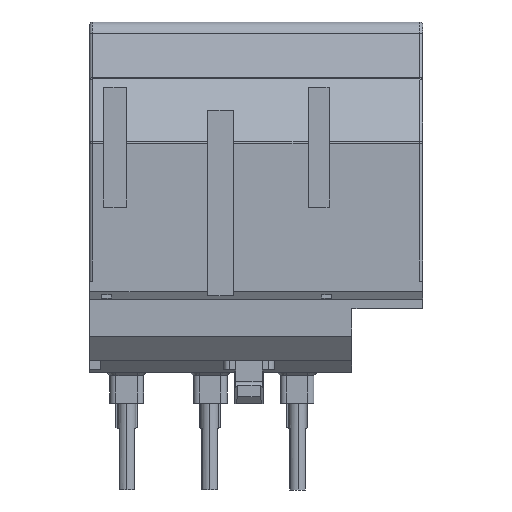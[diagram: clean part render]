
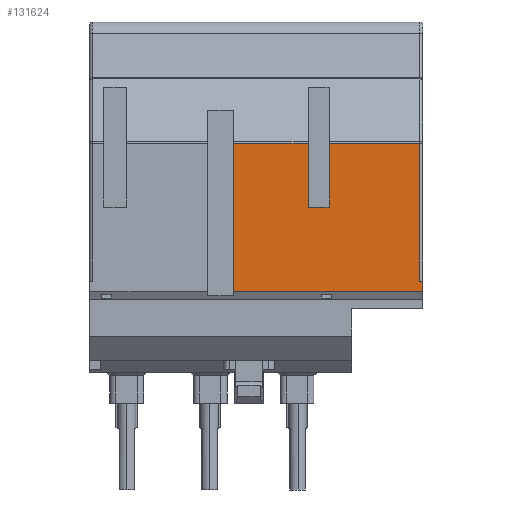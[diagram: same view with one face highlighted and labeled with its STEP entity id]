
A CAD part, front view. The second image highlights one B-rep face of the part: STEP entity #131624.
In plain terms, the highlighted planar face has unit normal (0, -1, 0).
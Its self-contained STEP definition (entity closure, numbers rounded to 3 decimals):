
#3917 = CARTESIAN_POINT ( 'NONE',  ( -22.358, -74.5, 11.8 ) ) ;
#5204 = DIRECTION ( 'NONE',  ( 0., 0., 1. ) ) ;
#8734 = VECTOR ( 'NONE', #48322, 1000. ) ;
#8840 = CARTESIAN_POINT ( 'NONE',  ( -22.358, -74.5, 26.5 ) ) ;
#8936 = ORIENTED_EDGE ( 'NONE', *, *, #18114, .T. ) ;
#9118 = ORIENTED_EDGE ( 'NONE', *, *, #50610, .F. ) ;
#10460 = CARTESIAN_POINT ( 'NONE',  ( 0., -74.5, 26.5 ) ) ;
#10512 = VERTEX_POINT ( 'NONE', #23595 ) ;
#13356 = CARTESIAN_POINT ( 'NONE',  ( 0., -74.5, 26.5 ) ) ;
#16446 = DIRECTION ( 'NONE',  ( 0., 0., -1. ) ) ;
#18114 = EDGE_CURVE ( 'NONE', #107417, #110657, #54779, .T. ) ;
#18155 = ORIENTED_EDGE ( 'NONE', *, *, #40929, .T. ) ;
#20833 = EDGE_CURVE ( 'NONE', #110657, #125115, #91464, .T. ) ;
#22180 = VECTOR ( 'NONE', #54309, 1000. ) ;
#23189 = CARTESIAN_POINT ( 'NONE',  ( 0., -74.5, 27. ) ) ;
#23595 = CARTESIAN_POINT ( 'NONE',  ( 1.7, -74.5, 27. ) ) ;
#27273 = CARTESIAN_POINT ( 'NONE',  ( -12., -74.5, 11.8 ) ) ;
#27509 = ORIENTED_EDGE ( 'NONE', *, *, #102811, .F. ) ;
#32689 = VERTEX_POINT ( 'NONE', #51445 ) ;
#32879 = LINE ( 'NONE', #13356, #37589 ) ;
#33332 = DIRECTION ( 'NONE',  ( 1., 0., 0. ) ) ;
#33778 = VECTOR ( 'NONE', #33332, 1000. ) ;
#34570 = CARTESIAN_POINT ( 'NONE',  ( -22.358, -74.5, 8.4 ) ) ;
#36321 = VERTEX_POINT ( 'NONE', #64450 ) ;
#36996 = VECTOR ( 'NONE', #77054, 1000. ) ;
#37589 = VECTOR ( 'NONE', #53099, 1000. ) ;
#37870 = CARTESIAN_POINT ( 'NONE',  ( -22.358, -74.5, -3.7 ) ) ;
#39495 = LINE ( 'NONE', #8840, #134051 ) ;
#40294 = LINE ( 'NONE', #91148, #108333 ) ;
#40390 = VERTEX_POINT ( 'NONE', #52895 ) ;
#40929 = EDGE_CURVE ( 'NONE', #46205, #43297, #99312, .T. ) ;
#43297 = VERTEX_POINT ( 'NONE', #27273 ) ;
#43794 = LINE ( 'NONE', #128086, #33778 ) ;
#46205 = VERTEX_POINT ( 'NONE', #54235 ) ;
#46251 = EDGE_CURVE ( 'NONE', #125115, #10512, #115554, .T. ) ;
#46434 = DIRECTION ( 'NONE',  ( 0., -1., 0. ) ) ;
#48322 = DIRECTION ( 'NONE',  ( 1., 0., 0. ) ) ;
#48480 = FACE_OUTER_BOUND ( 'NONE', #55156, .T. ) ;
#50610 = EDGE_CURVE ( 'NONE', #107417, #36321, #43794, .T. ) ;
#50881 = ORIENTED_EDGE ( 'NONE', *, *, #125040, .F. ) ;
#51445 = CARTESIAN_POINT ( 'NONE',  ( 0., -74.5, 26.5 ) ) ;
#52088 = AXIS2_PLACEMENT_3D ( 'NONE', #90944, #46434, #16446 ) ;
#52895 = CARTESIAN_POINT ( 'NONE',  ( -22.358, -74.5, 26.5 ) ) ;
#53099 = DIRECTION ( 'NONE',  ( -1., 0., 0. ) ) ;
#54235 = CARTESIAN_POINT ( 'NONE',  ( -22.358, -74.5, 11.8 ) ) ;
#54309 = DIRECTION ( 'NONE',  ( 0., 0., 1. ) ) ;
#54779 = LINE ( 'NONE', #34570, #36996 ) ;
#54929 = CARTESIAN_POINT ( 'NONE',  ( -22.358, -74.5, -3.7 ) ) ;
#54970 = ORIENTED_EDGE ( 'NONE', *, *, #135776, .T. ) ;
#55156 = EDGE_LOOP ( 'NONE', ( #54970, #18155, #115183, #9118, #8936, #126960, #127770, #27509, #50881, #84113 ) ) ;
#60178 = CARTESIAN_POINT ( 'NONE',  ( -12., -74.5, 8.4 ) ) ;
#60391 = DIRECTION ( 'NONE',  ( 0., 0., -1. ) ) ;
#64450 = CARTESIAN_POINT ( 'NONE',  ( -12., -74.5, 8.4 ) ) ;
#68010 = PLANE ( 'NONE',  #52088 ) ;
#76570 = LINE ( 'NONE', #10460, #22180 ) ;
#77054 = DIRECTION ( 'NONE',  ( 0., 0., -1. ) ) ;
#84113 = ORIENTED_EDGE ( 'NONE', *, *, #124678, .T. ) ;
#85008 = VECTOR ( 'NONE', #5204, 1000. ) ;
#88862 = DIRECTION ( 'NONE',  ( 1., 0., 0. ) ) ;
#90944 = CARTESIAN_POINT ( 'NONE',  ( -22.5, -74.5, -27. ) ) ;
#91148 = CARTESIAN_POINT ( 'NONE',  ( 0., -74.5, 27. ) ) ;
#91464 = LINE ( 'NONE', #37870, #8734 ) ;
#94200 = CARTESIAN_POINT ( 'NONE',  ( -22.358, -74.5, 8.4 ) ) ;
#95462 = EDGE_CURVE ( 'NONE', #36321, #43297, #133333, .T. ) ;
#96015 = CARTESIAN_POINT ( 'NONE',  ( 1.7, -74.5, -3.7 ) ) ;
#99312 = LINE ( 'NONE', #3917, #108394 ) ;
#102811 = EDGE_CURVE ( 'NONE', #120467, #10512, #40294, .T. ) ;
#103665 = DIRECTION ( 'NONE',  ( 1., 0., 0. ) ) ;
#107417 = VERTEX_POINT ( 'NONE', #94200 ) ;
#108333 = VECTOR ( 'NONE', #103665, 1000. ) ;
#108394 = VECTOR ( 'NONE', #88862, 1000. ) ;
#110657 = VERTEX_POINT ( 'NONE', #54929 ) ;
#115183 = ORIENTED_EDGE ( 'NONE', *, *, #95462, .F. ) ;
#115554 = LINE ( 'NONE', #96015, #117831 ) ;
#117831 = VECTOR ( 'NONE', #128076, 1000. ) ;
#120467 = VERTEX_POINT ( 'NONE', #23189 ) ;
#122488 = CARTESIAN_POINT ( 'NONE',  ( 1.7, -74.5, -3.7 ) ) ;
#124678 = EDGE_CURVE ( 'NONE', #32689, #40390, #32879, .T. ) ;
#125040 = EDGE_CURVE ( 'NONE', #32689, #120467, #76570, .T. ) ;
#125115 = VERTEX_POINT ( 'NONE', #122488 ) ;
#126960 = ORIENTED_EDGE ( 'NONE', *, *, #20833, .T. ) ;
#127770 = ORIENTED_EDGE ( 'NONE', *, *, #46251, .T. ) ;
#128076 = DIRECTION ( 'NONE',  ( 0., 0., 1. ) ) ;
#128086 = CARTESIAN_POINT ( 'NONE',  ( -22.358, -74.5, 8.4 ) ) ;
#131624 = ADVANCED_FACE ( 'NONE', ( #48480 ), #68010, .T. ) ;
#133333 = LINE ( 'NONE', #60178, #85008 ) ;
#134051 = VECTOR ( 'NONE', #60391, 1000. ) ;
#135776 = EDGE_CURVE ( 'NONE', #40390, #46205, #39495, .T. ) ;
